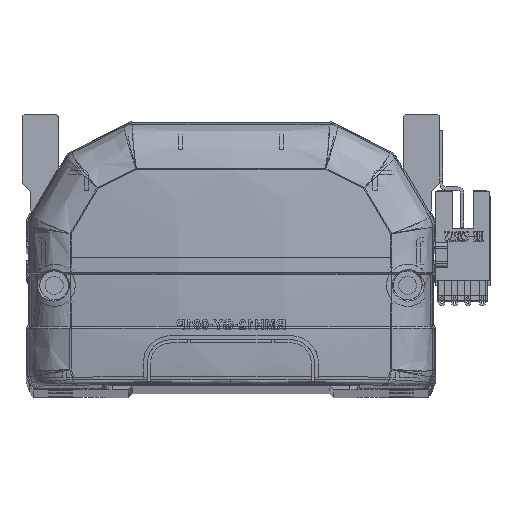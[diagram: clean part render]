
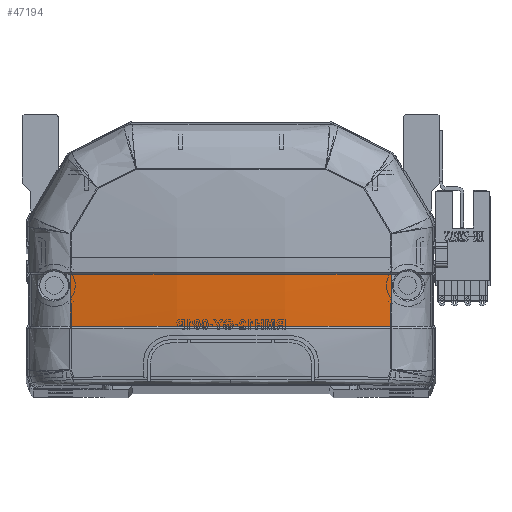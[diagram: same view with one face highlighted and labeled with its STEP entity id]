
A CAD part, top view. The second image highlights one B-rep face of the part: STEP entity #47194.
In plain terms, the highlighted free-form (B-spline) face has degree [3, 3] with [4, 4] control points.
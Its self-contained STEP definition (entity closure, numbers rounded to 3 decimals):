
#699 = B_SPLINE_CURVE_WITH_KNOTS ( 'NONE', 3,
 ( #25870, #10373, #21428, #30357 ),
 .UNSPECIFIED., .F., .F.,
 ( 4, 4 ),
 ( 0., 1. ),
 .UNSPECIFIED. ) ;
#2045 = CARTESIAN_POINT ( 'NONE',  ( 26.761, 15.83, -7.945 ) ) ;
#2205 = VERTEX_POINT ( 'NONE', #27372 ) ;
#2227 = CARTESIAN_POINT ( 'NONE',  ( -36.679, 15.83, -6.395 ) ) ;
#3250 = FACE_OUTER_BOUND ( 'NONE', #12528, .T. ) ;
#3373 = VERTEX_POINT ( 'NONE', #33715 ) ;
#4134 = CARTESIAN_POINT ( 'NONE',  ( 26.749, 28.706, -8.432 ) ) ;
#5825 = CARTESIAN_POINT ( 'NONE',  ( 39.985, 15.83, -5.879 ) ) ;
#6199 = ORIENTED_EDGE ( 'NONE', *, *, #14343, .F. ) ;
#6629 = CARTESIAN_POINT ( 'NONE',  ( -39.973, 20.118, -6.142 ) ) ;
#6689 = CARTESIAN_POINT ( 'NONE',  ( -13.598, 28.769, -10.535 ) ) ;
#7382 = CARTESIAN_POINT ( 'NONE',  ( 13.598, 24.342, -10.47 ) ) ;
#9919 = CARTESIAN_POINT ( 'NONE',  ( -6.692, 15.83, -8.984 ) ) ;
#10373 = CARTESIAN_POINT ( 'NONE',  ( 39.973, 20.12, -6.142 ) ) ;
#10628 = CARTESIAN_POINT ( 'NONE',  ( -13.598, 19.918, -10.302 ) ) ;
#10799 = CARTESIAN_POINT ( 'NONE',  ( -40.461, 28.832, -6.296 ) ) ;
#11319 = CARTESIAN_POINT ( 'NONE',  ( -40.461, 20.111, -6.066 ) ) ;
#12528 = EDGE_LOOP ( 'NONE', ( #35640, #37167, #31579, #6199 ) ) ;
#13859 = CARTESIAN_POINT ( 'NONE',  ( -13.384, 15.83, -8.724 ) ) ;
#14343 = EDGE_CURVE ( 'NONE', #2205, #33458, #28764, .T. ) ;
#17305 = EDGE_CURVE ( 'NONE', #3373, #33458, #40750, .T. ) ;
#17768 = CARTESIAN_POINT ( 'NONE',  ( -33.365, 15.83, -6.848 ) ) ;
#17930 = CARTESIAN_POINT ( 'NONE',  ( -26.721, 15.83, -7.624 ) ) ;
#18632 = CARTESIAN_POINT ( 'NONE',  ( 13.598, 28.769, -10.535 ) ) ;
#18818 = CARTESIAN_POINT ( 'NONE',  ( -40.461, 24.47, -6.231 ) ) ;
#19140 = CARTESIAN_POINT ( 'NONE',  ( -26.748, 28.706, -8.432 ) ) ;
#21428 = CARTESIAN_POINT ( 'NONE',  ( 39.966, 24.413, -6.306 ) ) ;
#22303 = CARTESIAN_POINT ( 'NONE',  ( -39.985, 15.83, -5.879 ) ) ;
#22544 = CARTESIAN_POINT ( 'NONE',  ( 40.461, 20.111, -6.066 ) ) ;
#22712 = CARTESIAN_POINT ( 'NONE',  ( 40.461, 24.47, -6.231 ) ) ;
#25870 = CARTESIAN_POINT ( 'NONE',  ( 39.985, 15.83, -5.879 ) ) ;
#26472 = CARTESIAN_POINT ( 'NONE',  ( -40.461, 15.757, -5.8 ) ) ;
#27370 = B_SPLINE_CURVE_WITH_KNOTS ( 'NONE', 3,
 ( #39173, #19140, #42736, #42561, #4134, #47036 ),
 .UNSPECIFIED., .F., .F.,
 ( 4, 2, 4 ),
 ( 0., 0.5, 1. ),
 .UNSPECIFIED. ) ;
#27372 = CARTESIAN_POINT ( 'NONE',  ( 39.985, 15.83, -5.879 ) ) ;
#28764 = B_SPLINE_CURVE_WITH_KNOTS ( 'NONE', 3,
 ( #5825, #2045, #48906, #9919, #13859, #33164, #17930, #17768, #2227, #29546 ),
 .UNSPECIFIED., .F., .F.,
 ( 4, 2, 2, 2, 4 ),
 ( 0., 0.04, 0.06, 0.07, 0.08 ),
 .UNSPECIFIED. ) ;
#29546 = CARTESIAN_POINT ( 'NONE',  ( -39.985, 15.83, -5.879 ) ) ;
#29908 = EDGE_CURVE ( 'NONE', #2205, #43583, #699, .T. ) ;
#30357 = CARTESIAN_POINT ( 'NONE',  ( 39.963, 28.706, -6.372 ) ) ;
#30540 = CARTESIAN_POINT ( 'NONE',  ( -39.963, 28.706, -6.372 ) ) ;
#31579 = ORIENTED_EDGE ( 'NONE', *, *, #17305, .T. ) ;
#31887 =( BOUNDED_SURFACE ( )  B_SPLINE_SURFACE ( 3, 3, ( 
 ( #46023, #22544, #22712, #50010 ),
 ( #42235, #34068, #7382, #18632 ),
 ( #42406, #10628, #46198, #6689 ),
 ( #26472, #11319, #18818, #10799 ) ),
 .UNSPECIFIED., .F., .F., .F. ) 
 B_SPLINE_SURFACE_WITH_KNOTS ( ( 4, 4 ),
 ( 4, 4 ),
 ( 0., 1. ),
 ( 0., 1. ),
 .UNSPECIFIED. ) 
 GEOMETRIC_REPRESENTATION_ITEM ( )  RATIONAL_B_SPLINE_SURFACE ( (
 ( 1., 1., 1., 1.),
 ( 0.992, 0.992, 0.992, 0.992),
 ( 0.992, 0.992, 0.992, 0.992),
 ( 1., 1., 1., 1.) ) ) 
 REPRESENTATION_ITEM ( '' )  SURFACE ( )  );
#33164 = CARTESIAN_POINT ( 'NONE',  ( -23.389, 15.83, -7.947 ) ) ;
#33458 = VERTEX_POINT ( 'NONE', #48177 ) ;
#33715 = CARTESIAN_POINT ( 'NONE',  ( -39.963, 28.706, -6.372 ) ) ;
#34068 = CARTESIAN_POINT ( 'NONE',  ( 13.598, 19.918, -10.302 ) ) ;
#34427 = CARTESIAN_POINT ( 'NONE',  ( 39.963, 28.706, -6.372 ) ) ;
#35640 = ORIENTED_EDGE ( 'NONE', *, *, #29908, .T. ) ;
#37167 = ORIENTED_EDGE ( 'NONE', *, *, #42787, .F. ) ;
#39173 = CARTESIAN_POINT ( 'NONE',  ( -39.963, 28.706, -6.372 ) ) ;
#40750 = B_SPLINE_CURVE_WITH_KNOTS ( 'NONE', 3,
 ( #30540, #45798, #6629, #22303 ),
 .UNSPECIFIED., .F., .F.,
 ( 4, 4 ),
 ( 0., 1. ),
 .UNSPECIFIED. ) ;
#42235 = CARTESIAN_POINT ( 'NONE',  ( 13.598, 15.499, -10.032 ) ) ;
#42406 = CARTESIAN_POINT ( 'NONE',  ( -13.598, 15.499, -10.032 ) ) ;
#42561 = CARTESIAN_POINT ( 'NONE',  ( 13.375, 28.707, -9.468 ) ) ;
#42736 = CARTESIAN_POINT ( 'NONE',  ( -13.373, 28.707, -9.468 ) ) ;
#42787 = EDGE_CURVE ( 'NONE', #3373, #43583, #27370, .T. ) ;
#43583 = VERTEX_POINT ( 'NONE', #34427 ) ;
#45798 = CARTESIAN_POINT ( 'NONE',  ( -39.966, 24.412, -6.306 ) ) ;
#46023 = CARTESIAN_POINT ( 'NONE',  ( 40.461, 15.757, -5.8 ) ) ;
#46198 = CARTESIAN_POINT ( 'NONE',  ( -13.598, 24.342, -10.47 ) ) ;
#47036 = CARTESIAN_POINT ( 'NONE',  ( 39.963, 28.706, -6.372 ) ) ;
#47194 = ADVANCED_FACE ( 'NONE', ( #3250 ), #31887, .F. ) ;
#48177 = CARTESIAN_POINT ( 'NONE',  ( -39.985, 15.83, -5.879 ) ) ;
#48906 = CARTESIAN_POINT ( 'NONE',  ( 13.38, 15.83, -8.984 ) ) ;
#50010 = CARTESIAN_POINT ( 'NONE',  ( 40.461, 28.832, -6.296 ) ) ;
